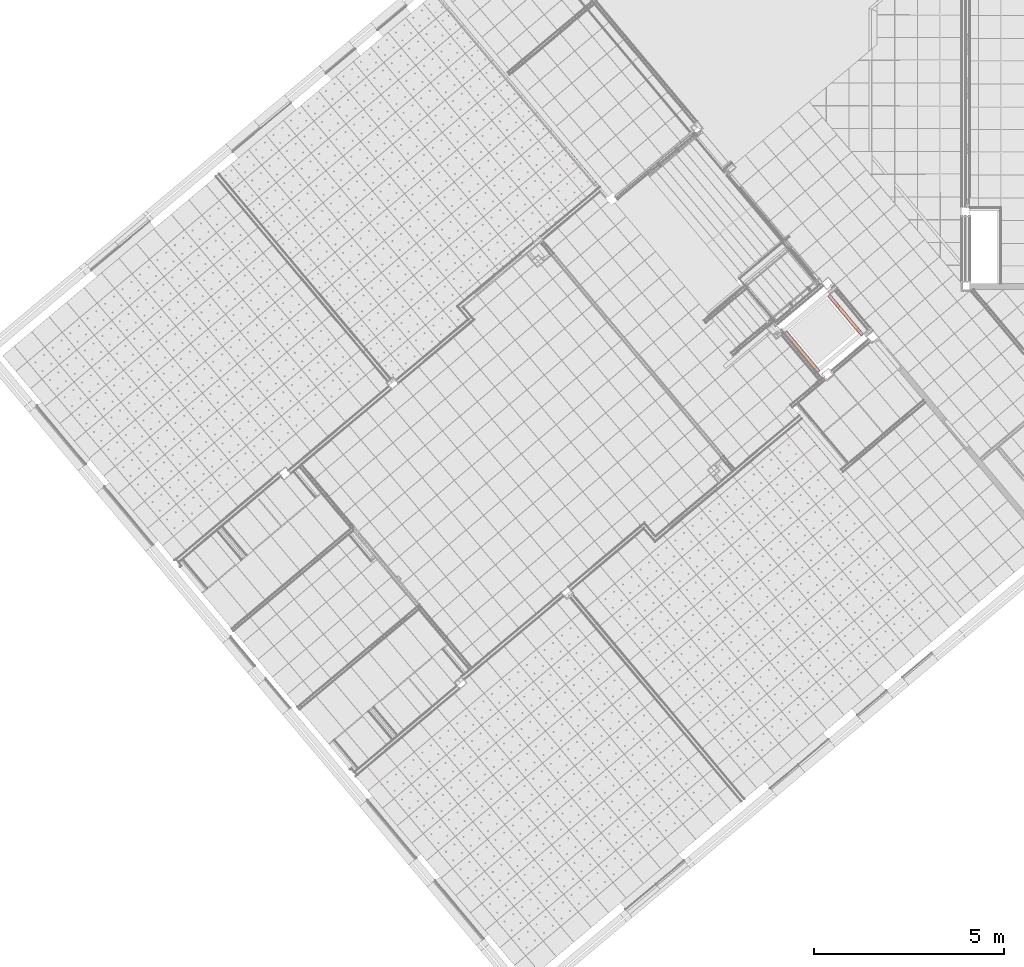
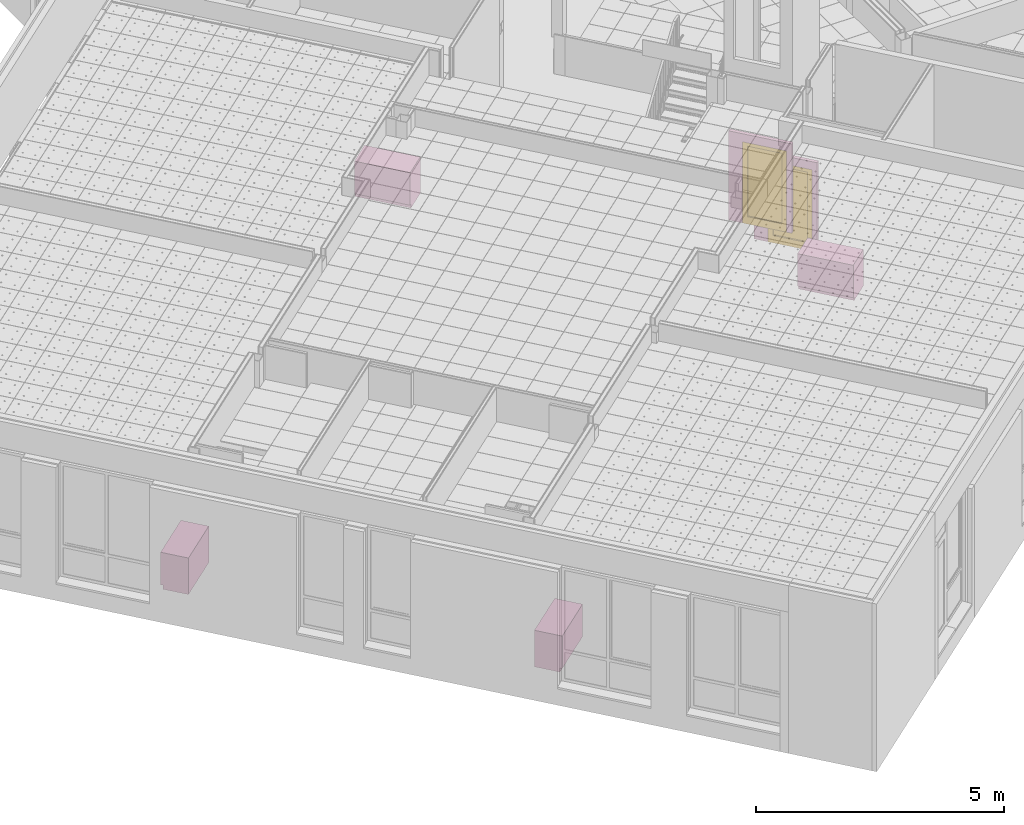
# One storey, part 123 of 338: 4 furnishings, 2 doors, 2 transport elements, 2 openings.
"""IFC2X3 building model written with IfcOpenShell, lengths in millimetres."""

from ifc_helpers import new_model, entity, si_unit, converted_unit, derived_unit, money_unit, direction, frame, origin_with_axes, place, context, subcontext, project, spatial, open_shell, faceted_brep, surface_model, source, transform, mapped, material, type_object, type_shapes, element, fill, save


model = new_model("IFC2X3")

# Units and contexts
model_context = context("Model", 3, precision=0.01, world=origin_with_axes(), true_north=direction((0.0, 1.0)))
plan_context = context("Plan", 3, precision=0.01, world=origin_with_axes(), true_north=direction((0.0, 1.0)))
body_context = subcontext(model_context, "Body", "Model", "MODEL_VIEW")
ifc_project = project(units=[si_unit("LENGTHUNIT", "METRE", prefix="MILLI"), si_unit("AREAUNIT", "SQUARE_METRE"), si_unit("VOLUMEUNIT", "CUBIC_METRE"), converted_unit("PLANEANGLEUNIT", "DEGREE", entity("IfcPlaneAngleMeasure", 0.0174532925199), si_unit("PLANEANGLEUNIT", "RADIAN"), dimensions=[0, 0, 0, 0, 0, 0, 0]), money_unit("EUR"), converted_unit("TIMEUNIT", "Year", entity("IfcTimeMeasure", 31556926.0), si_unit("TIMEUNIT", "SECOND"), dimensions=[0, 0, 1, 0, 0, 0, 0]), si_unit("MASSUNIT", "GRAM", prefix="KILO"), si_unit("THERMODYNAMICTEMPERATUREUNIT", "DEGREE_CELSIUS"), si_unit("LUMINOUSINTENSITYUNIT", "LUMEN"), si_unit("ENERGYUNIT", "JOULE", prefix="MEGA"), derived_unit("THERMALCONDUCTANCEUNIT", [(si_unit("POWERUNIT", "WATT"), 1), (si_unit("LENGTHUNIT", "METRE"), -1), (si_unit("THERMODYNAMICTEMPERATUREUNIT", "KELVIN"), -1)]), derived_unit("SPECIFICHEATCAPACITYUNIT", [(si_unit("ENERGYUNIT", "JOULE"), 1), (si_unit("MASSUNIT", "GRAM", prefix="KILO"), -1), (si_unit("THERMODYNAMICTEMPERATUREUNIT", "KELVIN"), -1)]), derived_unit("MASSDENSITYUNIT", [(si_unit("MASSUNIT", "GRAM", prefix="KILO"), 1), (si_unit("VOLUMEUNIT", "CUBIC_METRE"), -1)])], contexts=[model_context, plan_context])

# Site, building, storey
site_placement = place(None, origin_with_axes())
site = spatial("IfcSite", under=ifc_project, at=site_placement, Name="Fortuinstraat Woensdrecht", CompositionType="ELEMENT")
building_placement = place(site_placement, origin_with_axes())
building = spatial("IfcBuilding", under=site, at=building_placement, Name="IKC Fortuna", CompositionType="ELEMENT")
storey_placement = place(building_placement, origin_with_axes())
storey = spatial("IfcBuildingStorey", under=building, at=storey_placement, Name="00 begane grond", CompositionType="ELEMENT", Elevation=0.0)

# Transport element, opening, door
ifc_material = material(Name="ALG - BINNENAFWERKING")
transport_element_type = type_object("IfcTransportElementType", Name="ALG - BINNENAFWERKING 80", PredefinedType="ELEVATOR")
transport_element_1_placement = place(storey_placement, frame((20836.3089727, 534.330924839, 1450.0), z_axis=(0.0, 0.0, 1.0), x_axis=(0.642787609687, -0.766044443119, 0.0)))
transport_element_1 = element("IfcTransportElement", 1, at=transport_element_1_placement, inside=storey, type_object=transport_element_type, material=ifc_material, Name="66_Lift_liftvoorwand", ObjectType="ELEVATOR", context=body_context, shape_type="Brep", body=[
    faceted_brep([(307.0, 80.0, 2000.0), (307.0, 80.0, 0.0), (0.0, 80.0, 0.0), (0.0, 80.0, 2200.0), (1362.0, 80.0, 2200.0), (1362.0, 80.0, 0.0), (1252.0, 80.0, 0.0), (1252.0, 80.0, 2000.0), (307.0, 0.0, 2000.0), (307.0, 0.0, 0.0), (0.0, 0.0, 0.0), (0.0, 0.0, 2200.0), (1362.0, 0.0, 2200.0), (1362.0, 0.0, 0.0), (1252.0, 0.0, 0.0), (1252.0, 0.0, 2000.0)], [[[0, 1, 2, 3, 4, 5, 6, 7]], [[1, 0, 8, 9]], [[1, 9, 10, 2]], [[2, 10, 11, 3]], [[12, 4, 3, 11]], [[5, 4, 12, 13]], [[14, 6, 5, 13]], [[7, 6, 14, 15]], [[0, 7, 15, 8]], [[15, 14, 13, 12, 11, 10, 9, 8]]]),
])
opening_1_placement = place(transport_element_1_placement, frame((779.5, 0.0, 0.0), z_axis=(0.0, 0.0, 1.0), x_axis=(1.0, 0.0, 0.0)))
opening_1 = element("IfcOpeningElement", 2, at=opening_1_placement, cuts=transport_element_1, Name="32_Deur_L", context=body_context, shape_type="Brep", body=[
    faceted_brep([(472.5, -160.0, 2000.0), (472.5, -160.0, 0.0), (472.5, 80.0, 0.0), (472.5, 80.0, 2000.0), (-472.5, -160.0, 2000.0), (-472.5, -160.0, 0.0), (-472.5, 80.0, 0.0), (-472.5, 80.0, 2000.0)], [[[0, 1, 2, 3]], [[0, 4, 5, 1]], [[1, 5, 6, 2]], [[3, 2, 6, 7]], [[4, 0, 3, 7]], [[5, 4, 7, 6]]]),
])
door_style_1 = type_object("IfcDoorStyle", Name="D1 25", ConstructionType="NOTDEFINED", OperationType="SINGLE_SWING_LEFT", ParameterTakesPrecedence=False, Sizeable=False)
shared_shape_1 = source(origin_with_axes(), body_context, "Body", "SurfaceModel", [
    faceted_brep([(-472.5, 0.0, 180.0), (-372.5, 0.0, 180.0), (-372.5, -80.0, 180.0), (-472.5, -80.0, 180.0), (-472.5, 0.0, 1920.0), (-372.5, 0.0, 1920.0), (-372.5, -80.0, 1920.0), (-472.5, -80.0, 1920.0)], [[[0, 1, 2, 3]], [[0, 4, 5, 1]], [[1, 5, 6, 2]], [[3, 2, 6, 7]], [[4, 0, 3, 7]], [[5, 4, 7, 6]]]),
    faceted_brep([(472.5, 0.0, 180.0), (472.5, 0.0, 1920.0), (472.5, -80.0, 1920.0), (472.5, -80.0, 180.0), (372.5, 0.0, 180.0), (372.5, 0.0, 1920.0), (372.5, -80.0, 1920.0), (372.5, -80.0, 180.0)], [[[0, 1, 2, 3]], [[0, 4, 5, 1]], [[1, 5, 6, 2]], [[3, 2, 6, 7]], [[4, 0, 3, 7]], [[5, 4, 7, 6]]]),
    faceted_brep([(-472.5, 0.0, 0.0), (472.5, 0.0, 0.0), (472.5, -80.0, 0.0), (-472.5, -80.0, 0.0), (-472.5, 0.0, 180.0), (-372.5, 0.0, 180.0), (372.5, 0.0, 180.0), (472.5, 0.0, 180.0), (472.5, -80.0, 180.0), (372.5, -80.0, 180.0), (-372.5, -80.0, 180.0), (-472.5, -80.0, 180.0)], [[[0, 1, 2, 3]], [[0, 4, 5, 6, 7, 1]], [[1, 7, 8, 2]], [[3, 2, 8, 9, 10, 11]], [[4, 0, 3, 11]], [[5, 4, 11, 10]], [[6, 5, 10, 9]], [[7, 6, 9, 8]]]),
    faceted_brep([(-472.5, 0.0, 2000.0), (-472.5, 0.0, 1920.0), (-472.5, -80.0, 1920.0), (-472.5, -80.0, 2000.0), (472.5, 0.0, 2000.0), (472.5, 0.0, 1920.0), (372.5, 0.0, 1920.0), (-372.5, 0.0, 1920.0), (-372.5, -80.0, 1920.0), (372.5, -80.0, 1920.0), (472.5, -80.0, 1920.0), (472.5, -80.0, 2000.0)], [[[0, 1, 2, 3]], [[0, 4, 5, 6, 7, 1]], [[1, 7, 8, 2]], [[3, 2, 8, 9, 10, 11]], [[4, 0, 3, 11]], [[5, 4, 11, 10]], [[6, 5, 10, 9]], [[7, 6, 9, 8]]]),
    surface_model("IfcShellBasedSurfaceModel", [(-372.5, -34.0, 180.0), (-372.5, -34.0, 1920.0), (372.5, -34.0, 1920.0), (372.5, -34.0, 180.0)], [open_shell([[[0, 1, 2, 3]]])]),
    surface_model("IfcShellBasedSurfaceModel", [(-372.5, -46.0, 180.0), (372.5, -46.0, 180.0), (372.5, -46.0, 1920.0), (-372.5, -46.0, 1920.0)], [open_shell([[[0, 1, 2, 3]]])]),
])
type_shapes(door_style_1, [shared_shape_1])
door_1_placement = place(opening_1_placement, frame((472.5, 0.0, 0.0), z_axis=(0.0, 0.0, 1.0), x_axis=(-1.0, 0.0, 0.0)))
door_1 = element("IfcDoor", 3, at=door_1_placement, inside=storey, type_object=door_style_1, Name="32_Deur_L", ObjectType="DOOR", OverallHeight=2000.0, OverallWidth=945.0, context=body_context, shape_type="MappedRepresentation", body=[
    mapped(shared_shape_1, transform((472.5, 0.0, 0.0))),
])
fill(opening_1, door_1)

transport_element_2_placement = place(storey_placement, frame((22046.6591927, 1549.9353458, 0.0), z_axis=(0.0, 0.0, 1.0), x_axis=(0.642787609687, -0.766044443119, 0.0)))
transport_element_2 = element("IfcTransportElement", 4, at=transport_element_2_placement, inside=storey, type_object=transport_element_type, material=ifc_material, Name="66_Lift_liftvoorwand", ObjectType="ELEVATOR", context=body_context, shape_type="Brep", body=[
    faceted_brep([(307.0, 0.0, 2000.0), (307.0, 0.0, 0.0), (0.0, 0.0, 0.0), (0.0, 0.0, 2200.0), (1362.0, 0.0, 2200.0), (1362.0, 0.0, 0.0), (1252.0, 0.0, 0.0), (1252.0, 0.0, 2000.0), (307.0, -80.0, 2000.0), (307.0, -80.0, 0.0), (0.0, -80.0, 0.0), (0.0, -80.0, 2200.0), (1362.0, -80.0, 2200.0), (1362.0, -80.0, 0.0), (1252.0, -80.0, 0.0), (1252.0, -80.0, 2000.0)], [[[0, 1, 2, 3, 4, 5, 6, 7]], [[1, 0, 8, 9]], [[1, 9, 10, 2]], [[11, 3, 2, 10]], [[12, 4, 3, 11]], [[12, 13, 5, 4]], [[14, 6, 5, 13]], [[7, 6, 14, 15]], [[0, 7, 15, 8]], [[15, 14, 13, 12, 11, 10, 9, 8]]]),
])
opening_2_placement = place(transport_element_2_placement, frame((779.5, 0.0, 0.0), z_axis=(0.0, 0.0, 1.0), x_axis=(1.0, 0.0, 0.0)))
opening_2 = element("IfcOpeningElement", 5, at=opening_2_placement, cuts=transport_element_2, Name="32_Deur_L", context=body_context, shape_type="Brep", body=[
    faceted_brep([(472.5, -80.0, 2000.0), (472.5, -80.0, 0.0), (472.5, 160.0, 0.0), (472.5, 160.0, 2000.0), (-472.5, -80.0, 2000.0), (-472.5, -80.0, 0.0), (-472.5, 160.0, 0.0), (-472.5, 160.0, 2000.0)], [[[0, 1, 2, 3]], [[0, 4, 5, 1]], [[1, 5, 6, 2]], [[3, 2, 6, 7]], [[4, 0, 3, 7]], [[5, 4, 7, 6]]]),
])
door_style_2 = type_object("IfcDoorStyle", Name="D1 25", ConstructionType="NOTDEFINED", OperationType="SINGLE_SWING_RIGHT", ParameterTakesPrecedence=False, Sizeable=False)
shared_shape_2 = source(origin_with_axes(), body_context, "Body", "SurfaceModel", [
    faceted_brep([(472.5, 0.0, 180.0), (472.5, -80.0, 180.0), (372.5, -80.0, 180.0), (372.5, 0.0, 180.0), (472.5, 0.0, 1920.0), (472.5, -80.0, 1920.0), (372.5, -80.0, 1920.0), (372.5, 0.0, 1920.0)], [[[0, 1, 2, 3]], [[4, 5, 1, 0]], [[1, 5, 6, 2]], [[3, 2, 6, 7]], [[0, 3, 7, 4]], [[7, 6, 5, 4]]]),
    faceted_brep([(-472.5, 0.0, 180.0), (-472.5, -80.0, 180.0), (-472.5, -80.0, 1920.0), (-472.5, 0.0, 1920.0), (-372.5, 0.0, 180.0), (-372.5, -80.0, 180.0), (-372.5, -80.0, 1920.0), (-372.5, 0.0, 1920.0)], [[[0, 1, 2, 3]], [[4, 5, 1, 0]], [[1, 5, 6, 2]], [[3, 2, 6, 7]], [[0, 3, 7, 4]], [[7, 6, 5, 4]]]),
    faceted_brep([(472.5, 0.0, 0.0), (472.5, -80.0, 0.0), (-472.5, -80.0, 0.0), (-472.5, 0.0, 0.0), (472.5, 0.0, 180.0), (472.5, -80.0, 180.0), (372.5, -80.0, 180.0), (-372.5, -80.0, 180.0), (-472.5, -80.0, 180.0), (-472.5, 0.0, 180.0), (-372.5, 0.0, 180.0), (372.5, 0.0, 180.0)], [[[0, 1, 2, 3]], [[4, 5, 1, 0]], [[1, 5, 6, 7, 8, 2]], [[3, 2, 8, 9]], [[0, 3, 9, 10, 11, 4]], [[11, 6, 5, 4]], [[10, 7, 6, 11]], [[9, 8, 7, 10]]]),
    faceted_brep([(472.5, 0.0, 2000.0), (472.5, -80.0, 2000.0), (472.5, -80.0, 1920.0), (472.5, 0.0, 1920.0), (-472.5, 0.0, 2000.0), (-472.5, -80.0, 2000.0), (-472.5, -80.0, 1920.0), (-372.5, -80.0, 1920.0), (372.5, -80.0, 1920.0), (372.5, 0.0, 1920.0), (-372.5, 0.0, 1920.0), (-472.5, 0.0, 1920.0)], [[[0, 1, 2, 3]], [[4, 5, 1, 0]], [[1, 5, 6, 7, 8, 2]], [[3, 2, 8, 9]], [[0, 3, 9, 10, 11, 4]], [[11, 6, 5, 4]], [[10, 7, 6, 11]], [[9, 8, 7, 10]]]),
    surface_model("IfcShellBasedSurfaceModel", [(372.5, -34.0, 180.0), (-372.5, -34.0, 180.0), (-372.5, -34.0, 1920.0), (372.5, -34.0, 1920.0)], [open_shell([[[0, 1, 2, 3]]])]),
    surface_model("IfcShellBasedSurfaceModel", [(372.5, -46.0, 180.0), (372.5, -46.0, 1920.0), (-372.5, -46.0, 1920.0), (-372.5, -46.0, 180.0)], [open_shell([[[0, 1, 2, 3]]])]),
])
type_shapes(door_style_2, [shared_shape_2])
door_2_placement = place(opening_2_placement, frame((-472.5, 0.0, 0.0), z_axis=(0.0, 0.0, 1.0), x_axis=(1.0, 0.0, 0.0)))
door_2 = element("IfcDoor", 6, at=door_2_placement, inside=storey, type_object=door_style_2, Name="32_Deur_L", ObjectType="DOOR", OverallHeight=2000.0, OverallWidth=945.0, context=body_context, shape_type="MappedRepresentation", body=[
    mapped(shared_shape_2, transform((472.5, 0.0, 0.0))),
])
fill(opening_2, door_2)

# Furnishings
furnishing_element_type = type_object("IfcFurnishingElementType", Name="Keukenopstelling 25")
shared_shape_3 = source(origin_with_axes(), body_context, "Body", "Brep", [
    faceted_brep([(999.927423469, 0.0, 0.0), (2199.92742347, 0.0, 0.0), (2199.92742347, 0.0, 100.0), (999.927423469, 0.0, 100.0), (999.927423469, 550.0, 0.0), (2199.92742347, 550.0, 0.0), (2199.92742347, 550.0, 100.0), (999.927423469, 550.0, 100.0)], [[[0, 1, 2, 3]], [[0, 4, 5, 1]], [[1, 5, 6, 2]], [[3, 2, 6, 7]], [[4, 0, 3, 7]], [[5, 4, 7, 6]]]),
    faceted_brep([(999.927423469, 0.0, 850.0), (2199.92742347, 0.0, 850.0), (2199.92742347, 0.0, 900.0), (999.927423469, 0.0, 900.0), (999.927423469, 600.0, 850.0), (2199.92742347, 600.0, 850.0), (2199.92742347, 600.0, 900.0), (999.927423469, 600.0, 900.0)], [[[0, 1, 2, 3]], [[0, 4, 5, 1]], [[1, 5, 6, 2]], [[3, 2, 6, 7]], [[4, 0, 3, 7]], [[5, 4, 7, 6]]]),
    faceted_brep([(999.927423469, 0.0, 100.0), (2199.92742347, 0.0, 100.0), (2199.92742347, 0.0, 850.0), (999.927423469, 0.0, 850.0), (999.927423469, 600.0, 100.0), (2199.92742347, 600.0, 100.0), (2199.92742347, 600.0, 850.0), (999.927423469, 600.0, 850.0)], [[[0, 1, 2, 3]], [[0, 4, 5, 1]], [[1, 5, 6, 2]], [[3, 2, 6, 7]], [[4, 0, 3, 7]], [[5, 4, 7, 6]]]),
])
for number, where, z_axis, x_axis, name in (
    (7, (16559.4418518, 3694.42669543, 1450.0), (0.0, 0.0, 1.0), (-0.642787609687, 0.766044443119, 0.0), "73_Inrichting_P1"),
    (8, (4029.97605055, -6078.3190653, 1450.0), (0.0, 0.0, 1.0), (0.766044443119, 0.642787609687, 0.0), "73_Inrichting_P1"),
    (9, (22681.874865, -3602.00484344, 1450.0), (0.0, 0.0, 1.0), (-0.642787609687, 0.766044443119, 0.0), "73_Inrichting_P1"),
):
    element("IfcFurnishingElement", number, at=place(storey_placement, frame(where, z_axis=z_axis, x_axis=x_axis)), inside=storey, type_object=furnishing_element_type, Name=name, context=body_context, shape_type="MappedRepresentation", body=[
        mapped(shared_shape_3, transform((0.0, 0.0, 0.0))),
    ])
shared_shape_4 = source(origin_with_axes(), body_context, "Body", "Brep", [
    faceted_brep([(-999.927423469, 0.0, 0.0), (-999.927423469, 0.0, 100.0), (-2199.92742347, 0.0, 100.0), (-2199.92742347, 0.0, 0.0), (-999.927423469, 550.0, 0.0), (-999.927423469, 550.0, 100.0), (-2199.92742347, 550.0, 100.0), (-2199.92742347, 550.0, 0.0)], [[[0, 1, 2, 3]], [[4, 5, 1, 0]], [[1, 5, 6, 2]], [[3, 2, 6, 7]], [[0, 3, 7, 4]], [[7, 6, 5, 4]]]),
    faceted_brep([(-999.927423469, 0.0, 850.0), (-999.927423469, 0.0, 900.0), (-2199.92742347, 0.0, 900.0), (-2199.92742347, 0.0, 850.0), (-999.927423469, 600.0, 850.0), (-999.927423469, 600.0, 900.0), (-2199.92742347, 600.0, 900.0), (-2199.92742347, 600.0, 850.0)], [[[0, 1, 2, 3]], [[4, 5, 1, 0]], [[1, 5, 6, 2]], [[3, 2, 6, 7]], [[0, 3, 7, 4]], [[7, 6, 5, 4]]]),
    faceted_brep([(-999.927423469, 0.0, 100.0), (-999.927423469, 0.0, 850.0), (-2199.92742347, 0.0, 850.0), (-2199.92742347, 0.0, 100.0), (-999.927423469, 600.0, 100.0), (-999.927423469, 600.0, 850.0), (-2199.92742347, 600.0, 850.0), (-2199.92742347, 600.0, 100.0)], [[[0, 1, 2, 3]], [[4, 5, 1, 0]], [[1, 5, 6, 2]], [[3, 2, 6, 7]], [[0, 3, 7, 4]], [[7, 6, 5, 4]]]),
])
type_shapes(furnishing_element_type, [shared_shape_3, shared_shape_4])
furnishing_placement = place(storey_placement, frame((8808.9854451, -11773.7206803, 1450.0), z_axis=(0.0, 0.0, 1.0), x_axis=(-0.766044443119, -0.642787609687, 0.0)))
element("IfcFurnishingElement", 10, at=furnishing_placement, inside=storey, type_object=furnishing_element_type, Name="73_Inrichting_P1", context=body_context, shape_type="MappedRepresentation", body=[
    mapped(shared_shape_4, transform((0.0, 0.0, 0.0))),
])

save(model, "model.ifc")
